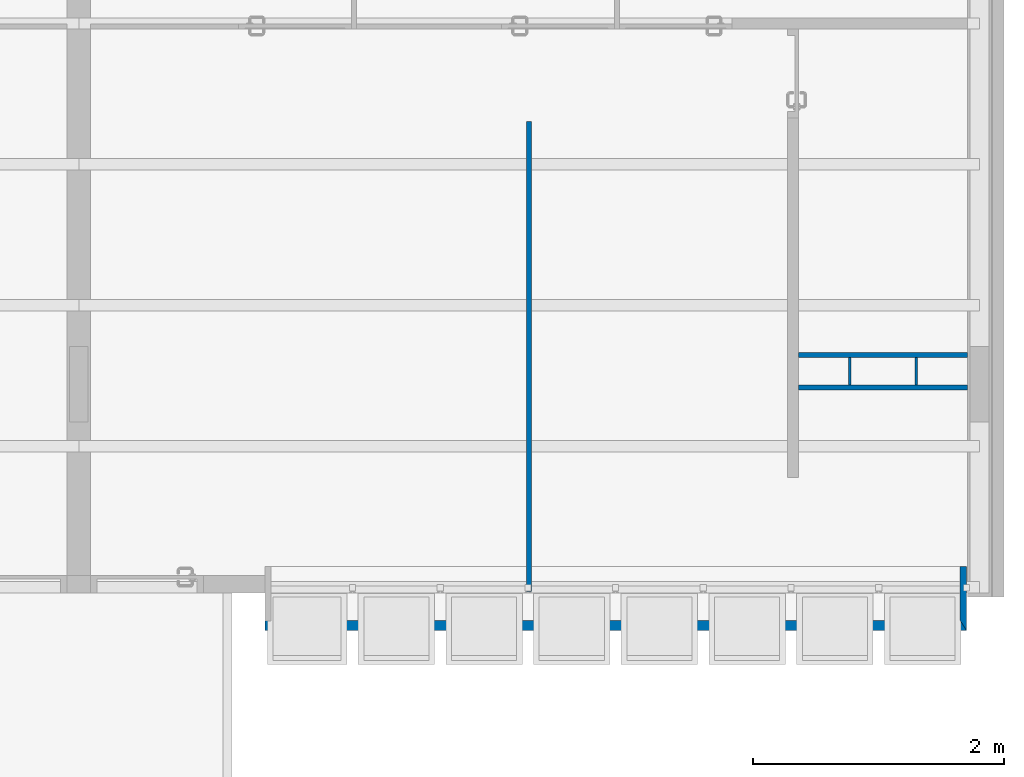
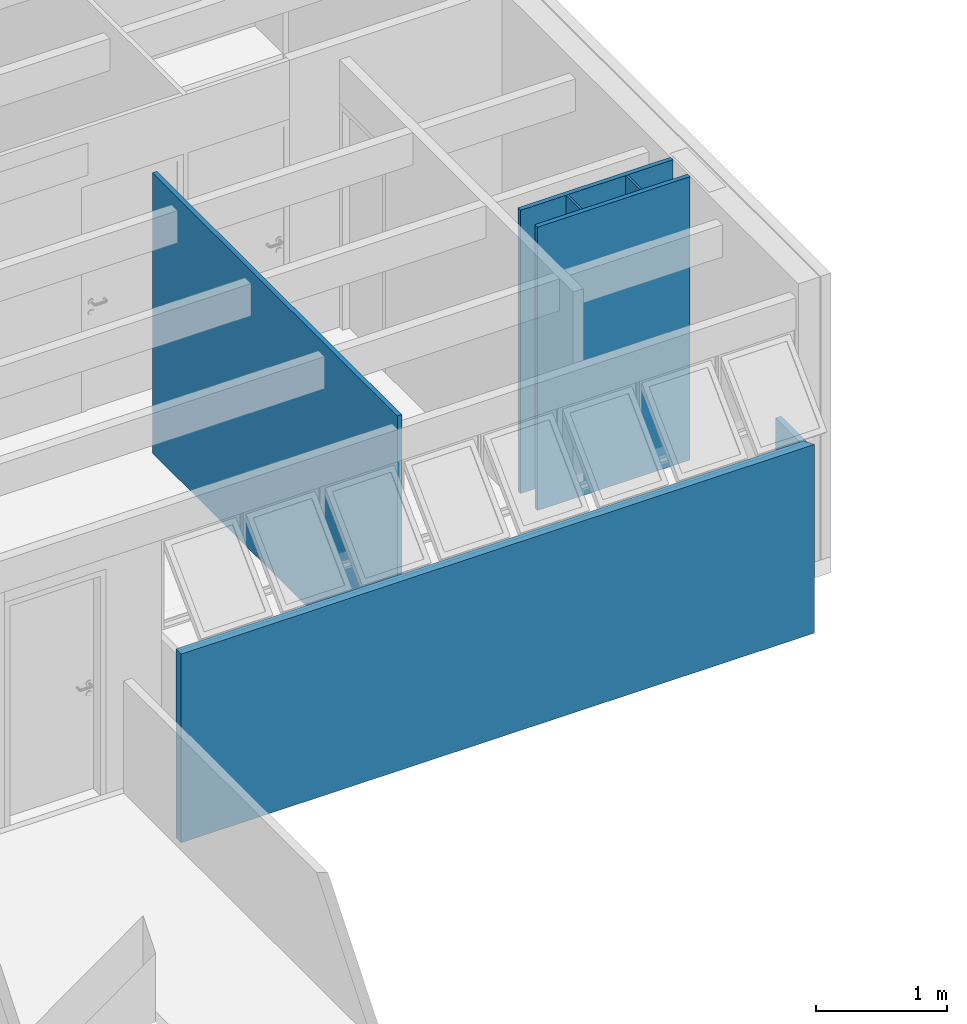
# One storey, part 23 of 38: 7 walls.
"""IFC2X3 building model written with IfcOpenShell, lengths in millimetres."""

import ifcopenshell
import ifcopenshell.guid

model = None  # the IFC model being written
_history = None  # IfcOwnerHistory: only IFC2X3 demands one
_inside = {}  # id of a spatial element -> (the spatial element, [elements in it])
_under = {}  # id of a project, library or spatial element -> (it, [spatial elements below it])
_declared = {}  # id of a project -> (the project, [libraries it declares])
_typed = {}  # id of a type object -> (the type object, [elements of that type])
_made_of = {}  # id of a material, layer set ... -> (it, [elements and type objects made of it])


def new_model(schema):
    """Start an empty IFC model of exactly this schema.

    Asked for "IFC4X3", IfcOpenShell would pick the latest addendum, in which some entities
    have other attributes; the version numbers below select the first issue.
    IFC2X3 requires an IfcOwnerHistory on every rooted entity: one is made here for all.
    """
    global model, _history
    if schema == "IFC4X3":
        model = ifcopenshell.file(schema_version=(4, 3, 0, 0))
    else:
        model = ifcopenshell.file(schema=schema)
    _inside.clear()
    _under.clear()
    _declared.clear()
    _typed.clear()
    _made_of.clear()
    _history = None
    if model.schema == "IFC2X3":
        org = make("IfcOrganization", Name="unknown")
        user = make(
            "IfcPersonAndOrganization",
            ThePerson=make("IfcPerson", FamilyName="unknown"),
            TheOrganization=org,
        )
        app = make(
            "IfcApplication",
            ApplicationDeveloper=org,
            Version="unknown",
            ApplicationFullName="unknown",
            ApplicationIdentifier="unknown",
        )
        _history = make(
            "IfcOwnerHistory",
            OwningUser=user,
            OwningApplication=app,
            ChangeAction="ADDED",
            CreationDate=0,
        )
    return model


def make(cls, **values):
    """One entity of the class cls with the attributes given. An attribute that is None is left unset."""
    return model.create_entity(
        cls, **{name: value for name, value in values.items() if value is not None}
    )


def entity(cls, *values):
    """Any entity or typed value of the class cls, its attributes in the order of the schema. None: left unset."""
    e = model.create_entity(cls)
    for i, value in enumerate(values):
        if value is not None:
            e[i] = value
    return e


def rooted(cls, **values):
    """An entity with a GlobalId (a new one), such as an element, a storey or a relation."""
    return make(cls, GlobalId=ifcopenshell.guid.new(), OwnerHistory=_history, **values)


def si_unit(unit_type, name, prefix=None):
    """IfcSIUnit, for example si_unit("LENGTHUNIT", "METRE", prefix="MILLI")."""
    return make("IfcSIUnit", UnitType=unit_type, Prefix=prefix, Name=name)


def converted_unit(unit_type, name, factor, base, dimensions=None, offset=None):
    """IfcConversionBasedUnit, such as the inch: factor (a typed value) times the base unit."""
    return make(
        "IfcConversionBasedUnit"
        if offset is None
        else "IfcConversionBasedUnitWithOffset",
        ConversionOffset=offset,
        Dimensions=None
        if dimensions is None
        else entity("IfcDimensionalExponents", *dimensions),
        UnitType=unit_type,
        Name=name,
        ConversionFactor=make(
            "IfcMeasureWithUnit", ValueComponent=factor, UnitComponent=base
        ),
    )


def derived_unit(unit_type, elements):
    """IfcDerivedUnit: a product of units, each with its exponent."""
    return make(
        "IfcDerivedUnit",
        Elements=[
            make("IfcDerivedUnitElement", Unit=unit, Exponent=power)
            for unit, power in elements
        ],
        UnitType=unit_type,
    )


def money_unit(currency):
    """IfcMonetaryUnit."""
    return make("IfcMonetaryUnit", Currency=currency)


def assignment(units):
    """IfcUnitAssignment: the units of a project."""
    return None if units is None else make("IfcUnitAssignment", Units=units)


def point(xyz):
    """IfcCartesianPoint."""
    return None if xyz is None else make("IfcCartesianPoint", Coordinates=xyz)


def direction(xyz):
    """IfcDirection."""
    return None if xyz is None else make("IfcDirection", DirectionRatios=xyz)


def frame(location, z_axis=None, x_axis=None):
    """IfcAxis2Placement3D, a coordinate frame: its origin and axes. An axis left out is left unset."""
    return make(
        "IfcAxis2Placement3D",
        Location=point(location),
        Axis=direction(z_axis),
        RefDirection=direction(x_axis),
    )


def origin_with_axes():
    """The frame at (0, 0, 0) with the z axis (0, 0, 1) and the x axis (1, 0, 0) written out."""
    return frame((0.0, 0.0, 0.0), z_axis=(0.0, 0.0, 1.0), x_axis=(1.0, 0.0, 0.0))


def place(relative_to, where):
    """IfcLocalPlacement: puts the frame where relative to a parent placement (None: the world)."""
    return make(
        "IfcLocalPlacement", PlacementRelTo=relative_to, RelativePlacement=where
    )


def context(
    kind, dimensions, precision=None, world=None, true_north=None, identifier=None
):
    """IfcGeometricRepresentationContext, for example the 3D "Model" context."""
    return make(
        "IfcGeometricRepresentationContext",
        ContextIdentifier=identifier,
        ContextType=kind,
        CoordinateSpaceDimension=dimensions,
        Precision=precision,
        WorldCoordinateSystem=world,
        TrueNorth=true_north,
    )


def subcontext(parent, identifier, kind, view, scale=None):
    """IfcGeometricRepresentationSubContext, for example "Body" below "Model"."""
    return make(
        "IfcGeometricRepresentationSubContext",
        ContextIdentifier=identifier,
        ContextType=kind,
        ParentContext=parent,
        TargetScale=scale,
        TargetView=view,
    )


def project(units=None, contexts=None):
    """IfcProject with its units and contexts."""
    return rooted(
        "IfcProject",
        Name="project",
        RepresentationContexts=contexts,
        UnitsInContext=assignment(units),
    )


def spatial(cls, under=None, at=None, **own):
    """A site, building, storey or space (cls), placed at a placement, below another one or the project."""
    s = rooted(cls, ObjectPlacement=at, **own)
    if under is not None:
        _under.setdefault(under.id(), (under, []))[1].append(s)
    return s


def polyline(points):
    """IfcPolyline through the points."""
    return make("IfcPolyline", Points=[point(p) for p in points])


def outline(outer, holes=None, kind="AREA"):
    """IfcArbitraryClosedProfileDef: a profile drawn as a closed curve; with holes, ...WithVoids."""
    if holes is None:
        return make("IfcArbitraryClosedProfileDef", ProfileType=kind, OuterCurve=outer)
    return make(
        "IfcArbitraryProfileDefWithVoids",
        ProfileType=kind,
        OuterCurve=outer,
        InnerCurves=holes,
    )


def extrude(swept, where, along, depth):
    """IfcExtrudedAreaSolid: the profile swept, set in the frame where, extruded along a direction by depth."""
    return make(
        "IfcExtrudedAreaSolid",
        SweptArea=swept,
        Position=where,
        ExtrudedDirection=direction(along),
        Depth=depth,
    )


def shape(context_of_items, identifier, shape_type, items):
    """IfcShapeRepresentation: the items that make up one representation, for example the "Body"."""
    return make(
        "IfcShapeRepresentation",
        ContextOfItems=context_of_items,
        RepresentationIdentifier=identifier,
        RepresentationType=shape_type,
        Items=items,
    )


def material(Name=None, Category=None):
    """IfcMaterial."""
    return make("IfcMaterial", Name=Name, Category=Category)


def layer(
    of_material, thickness, ventilated=None, Name=None, Category=None, Priority=None
):
    """IfcMaterialLayer: one layer of a wall or slab, of a material (None: an air gap)."""
    return make(
        "IfcMaterialLayer",
        Material=of_material,
        LayerThickness=thickness,
        IsVentilated=ventilated,
        Name=Name,
        Category=Category,
        Priority=Priority,
    )


def layer_set(layers, Name=None):
    """IfcMaterialLayerSet."""
    return make("IfcMaterialLayerSet", MaterialLayers=layers, LayerSetName=Name)


def layer_usage(for_layer_set, set_direction, sense, offset, extent=None):
    """IfcMaterialLayerSetUsage: how a layer set lies in its element."""
    return make(
        "IfcMaterialLayerSetUsage",
        ForLayerSet=for_layer_set,
        LayerSetDirection=set_direction,
        DirectionSense=sense,
        OffsetFromReferenceLine=offset,
        ReferenceExtent=extent,
    )


def made_of(thing, what):
    """Note that an element or type object is made of a material, layer set ...; save() writes the relation."""
    if what is not None:
        _made_of.setdefault(what.id(), (what, []))[1].append(thing)
    return thing


def type_object(cls, material=None, **own):
    """A type object (cls), such as IfcWallType, which elements share."""
    return made_of(rooted(cls, **own), material)


def element(
    cls,
    number,
    at=None,
    inside=None,
    cuts=None,
    type_object=None,
    material=None,
    context=None,
    identifier="Body",
    shape_type=None,
    held_by="IfcProductDefinitionShape",
    body=None,
    shapes=None,
    **own,
):
    """One element of the class cls, such as IfcWall. Its Tag is "e" and its number.

    at: its placement. inside: the storey or other place that contains it. cuts: it is an
    opening in that element (IfcRelVoidsElement). A single representation is given by context,
    identifier, shape_type and body (its items); several are given by shapes. held_by: the class
    of the entity that holds the representations. save() writes the other relations.
    """
    e = rooted(cls, Tag="e%d" % number, ObjectPlacement=at, **own)
    if body is not None:
        shapes = [shape(context, identifier, shape_type, body)]
    if shapes is not None:
        e.Representation = make(held_by, Representations=shapes)
    if inside is not None:
        _inside.setdefault(inside.id(), (inside, []))[1].append(e)
    if cuts is not None:
        rooted(
            "IfcRelVoidsElement", RelatingBuildingElement=cuts, RelatedOpeningElement=e
        )
    if type_object is not None:
        _typed.setdefault(type_object.id(), (type_object, []))[1].append(e)
    return made_of(e, material)


def aggregate(whole, parts):
    """IfcRelAggregates: a whole, such as a stair, and the parts it consists of."""
    return rooted("IfcRelAggregates", RelatingObject=whole, RelatedObjects=parts)


def save(model, path):
    """Write the relations noted so far, then the file.

    IfcRelAggregates (storeys below a building ...), IfcRelContainedInSpatialStructure (elements
    in a storey), IfcRelDefinesByType, IfcRelAssociatesMaterial and IfcRelDeclares: one each for
    every whole, place, type object, material and project.
    """
    for whole, parts in _under.values():
        aggregate(whole, parts)
    for where, things in _inside.values():
        rooted(
            "IfcRelContainedInSpatialStructure",
            RelatedElements=things,
            RelatingStructure=where,
        )
    for kind, things in _typed.values():
        rooted("IfcRelDefinesByType", RelatedObjects=things, RelatingType=kind)
    for what, things in _made_of.values():
        rooted("IfcRelAssociatesMaterial", RelatedObjects=things, RelatingMaterial=what)
    for by, libraries in _declared.values():
        rooted("IfcRelDeclares", RelatingContext=by, RelatedDefinitions=libraries)
    model.write(path)


model = new_model("IFC2X3")

# Units and contexts
model_context = context("Model", 3, precision=0.01, world=origin_with_axes(), true_north=direction((0.0, 1.0)))
body_context = subcontext(model_context, "Body", "Model", "MODEL_VIEW")
ifc_project = project(units=[si_unit("LENGTHUNIT", "METRE", prefix="MILLI"), si_unit("AREAUNIT", "SQUARE_METRE"), si_unit("VOLUMEUNIT", "CUBIC_METRE"), converted_unit("PLANEANGLEUNIT", "DEGREE", entity("IfcPlaneAngleMeasure", 0.0174532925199), si_unit("PLANEANGLEUNIT", "RADIAN"), dimensions=[0, 0, 0, 0, 0, 0, 0]), money_unit("USD"), converted_unit("TIMEUNIT", "Year", entity("IfcTimeMeasure", 31556926.0), si_unit("TIMEUNIT", "SECOND"), dimensions=[0, 0, 1, 0, 0, 0, 0]), si_unit("MASSUNIT", "GRAM", prefix="KILO"), si_unit("THERMODYNAMICTEMPERATUREUNIT", "DEGREE_CELSIUS"), si_unit("LUMINOUSINTENSITYUNIT", "LUMEN"), si_unit("ENERGYUNIT", "JOULE", prefix="MEGA"), derived_unit("THERMALCONDUCTANCEUNIT", [(si_unit("POWERUNIT", "WATT"), 1), (si_unit("LENGTHUNIT", "METRE"), -1), (si_unit("THERMODYNAMICTEMPERATUREUNIT", "KELVIN"), -1)]), derived_unit("SPECIFICHEATCAPACITYUNIT", [(si_unit("ENERGYUNIT", "JOULE"), 1), (si_unit("MASSUNIT", "GRAM", prefix="KILO"), -1), (si_unit("THERMODYNAMICTEMPERATUREUNIT", "KELVIN"), -1)]), derived_unit("MASSDENSITYUNIT", [(si_unit("MASSUNIT", "GRAM", prefix="KILO"), 1), (si_unit("VOLUMEUNIT", "CUBIC_METRE"), -1)])], contexts=[model_context])

# Site, building, storey
site_placement = place(None, origin_with_axes())
site = spatial("IfcSite", under=ifc_project, at=site_placement, Name="Local", CompositionType="ELEMENT")
building_placement = place(site_placement, origin_with_axes())
building = spatial("IfcBuilding", under=site, at=building_placement, Name="Construção", CompositionType="ELEMENT")
storey_placement = place(building_placement, frame((0.0, 0.0, 2650.0), z_axis=(0.0, 0.0, 1.0), x_axis=(1.0, 0.0, 0.0)))
storey = spatial("IfcBuildingStorey", under=building, at=storey_placement, Name="Segundo Pavimento", CompositionType="ELEMENT", Elevation=2650.0)

# Walls
ifc_material_1 = material(Name="GENÉRICO - VEDAÇÃO EXTERNA")
ifc_layer_1 = layer(ifc_material_1, 40.0, ventilated="UNKNOWN")
ifc_layer_set_1 = layer_set([ifc_layer_1], Name="GENÉRICO - VEDAÇÃO EXTERNA 40")
ifc_layer_usage_1 = layer_usage(ifc_layer_set_1, "AXIS2", "NEGATIVE", 40.0)
wall_type_1 = type_object("IfcWallType", Name="GENÉRICO - VEDAÇÃO EXTERNA 40", PredefinedType="NOTDEFINED")
wall_1_placement = place(storey_placement, frame((10960.0, 21655.0, 0.0), z_axis=(0.0, 0.0, 1.0), x_axis=(0.0, -1.0, 0.0)))
element("IfcWallStandardCase", 1, at=wall_1_placement, inside=storey, type_object=wall_type_1, material=ifc_layer_usage_1, Name="APTO8-PAREDE-003", context=body_context, shape_type="SweptSolid", body=[
    extrude(outline(polyline([(0.0, 0.0), (3750.0, 0.0), (3750.0, 40.0), (0.0, 40.0), (0.0, 0.0)])), origin_with_axes(), (0.0, 0.0, 1.0), 2620.0),
])
ifc_layer_usage_2 = layer_usage(ifc_layer_set_1, "AXIS2", "NEGATIVE", 40.0)
wall_2_placement = place(storey_placement, frame((14480.0, 19815.0, 0.0), z_axis=(0.0, 0.0, 1.0), x_axis=(-1.0, 0.0, 0.0)))
element("IfcWallStandardCase", 2, at=wall_2_placement, inside=storey, type_object=wall_type_1, material=ifc_layer_usage_2, Name="APTO8-PAREDE-011", context=body_context, shape_type="SweptSolid", body=[
    extrude(outline(polyline([(0.0, 0.0), (1350.0, 0.0), (1350.0, 40.0), (0.0, 40.0), (0.0, 0.0)])), origin_with_axes(), (0.0, 0.0, 1.0), 2650.0),
])
ifc_layer_usage_3 = layer_usage(ifc_layer_set_1, "AXIS2", "NEGATIVE", 40.0)
wall_3_placement = place(storey_placement, frame((13040.0, 19515.0, 0.0), z_axis=(0.0, 0.0, 1.0), x_axis=(1.0, 0.0, 0.0)))
element("IfcWallStandardCase", 3, at=wall_3_placement, inside=storey, type_object=wall_type_1, material=ifc_layer_usage_3, Name="APTO8-PAREDE-010", context=body_context, shape_type="SweptSolid", body=[
    extrude(outline(polyline([(90.0, 0.0), (1440.0, 0.0), (1440.0, 40.0), (90.0, 40.0), (90.0, 0.0)])), origin_with_axes(), (0.0, 0.0, 1.0), 2650.0),
])
ifc_material_2 = material(Name="Concreto Armado Moldado in Loco - Estrutural")
ifc_layer_2 = layer(ifc_material_2, 50.0, ventilated="UNKNOWN")
ifc_layer_set_2 = layer_set([ifc_layer_2], Name="Concreto Armado Moldado in Loco - Estrutural 50")
ifc_layer_usage_4 = layer_usage(ifc_layer_set_2, "AXIS2", "POSITIVE", -50.0)
wall_type_2 = type_object("IfcWallType", Name="Concreto Armado Moldado in Loco - Estrutural 50", PredefinedType="NOTDEFINED")
wall_4_placement = place(storey_placement, frame((14470.0, 18105.0000013, 0.0), z_axis=(0.0, 0.0, 1.0), x_axis=(0.0, -1.0, 0.0)))
element("IfcWallStandardCase", 4, at=wall_4_placement, inside=storey, type_object=wall_type_2, material=ifc_layer_usage_4, Name="APTO8-PAREDE-018", context=body_context, shape_type="SweptSolid", body=[
    extrude(outline(polyline([(0.0, -50.0), (430.0, -50.0), (510.0, 0.0), (0.0, 0.0), (0.0, -50.0)])), origin_with_axes(), (0.0, 0.0, 1.0), 1270.0),
])
ifc_layer_3 = layer(ifc_material_1, 20.0, ventilated="UNKNOWN")
ifc_layer_set_3 = layer_set([ifc_layer_3], Name="GENÉRICO - VEDAÇÃO EXTERNA 20")
ifc_layer_usage_5 = layer_usage(ifc_layer_set_3, "AXIS2", "NEGATIVE", 20.0)
wall_type_3 = type_object("IfcWallType", Name="GENÉRICO - VEDAÇÃO EXTERNA 20", PredefinedType="NOTDEFINED")
wall_5_placement = place(storey_placement, frame((14060.0, 19815.0, 0.0), z_axis=(0.0, 0.0, 1.0), x_axis=(0.0, -1.0, 0.0)))
element("IfcWallStandardCase", 5, at=wall_5_placement, inside=storey, type_object=wall_type_3, material=ifc_layer_usage_5, Name="APTO8-PAREDE-009", context=body_context, shape_type="SweptSolid", body=[
    extrude(outline(polyline([(40.0, 0.0), (260.0, 0.0), (260.0, 20.0), (40.0, 20.0), (40.0, 0.0)])), origin_with_axes(), (0.0, 0.0, 1.0), 2650.0),
])
ifc_layer_usage_6 = layer_usage(ifc_layer_set_3, "AXIS2", "NEGATIVE", 0.0)
wall_6_placement = place(storey_placement, frame((13530.0, 19515.0, 0.0), z_axis=(0.0, 0.0, 1.0), x_axis=(0.0, 1.0, 0.0)))
element("IfcWallStandardCase", 6, at=wall_6_placement, inside=storey, type_object=wall_type_3, material=ifc_layer_usage_6, Name="APTO8-PAREDE-008", context=body_context, shape_type="SweptSolid", body=[
    extrude(outline(polyline([(40.0, -20.0), (260.0, -20.0), (260.0, 0.0), (40.0, 0.0), (40.0, -20.0)])), origin_with_axes(), (0.0, 0.0, 1.0), 2650.0),
])
ifc_layer_4 = layer(ifc_material_2, 80.0, ventilated="UNKNOWN")
ifc_layer_set_4 = layer_set([ifc_layer_4], Name="Concreto Armado Moldado in Loco - Estrutural 80")
ifc_layer_usage_7 = layer_usage(ifc_layer_set_4, "AXIS2", "NEGATIVE", 80.0)
wall_type_4 = type_object("IfcWallType", Name="Concreto Armado Moldado in Loco - Estrutural 80", PredefinedType="NOTDEFINED")
wall_7_placement = place(storey_placement, frame((14470.0, 17675.0000013, -450.0), z_axis=(0.0, 0.0, 1.0), x_axis=(-1.0, 0.0, 0.0)))
element("IfcWallStandardCase", 7, at=wall_7_placement, inside=storey, type_object=wall_type_4, material=ifc_layer_usage_7, Name="APTO8-PAREDE-017", context=body_context, shape_type="SweptSolid", body=[
    extrude(outline(polyline([(50.0, 0.0), (5600.0, 0.0), (5600.0, 80.0), (0.0, 80.0), (50.0, 0.0)])), origin_with_axes(), (0.0, 0.0, 1.0), 1765.0),
])

save(model, "model.ifc")
